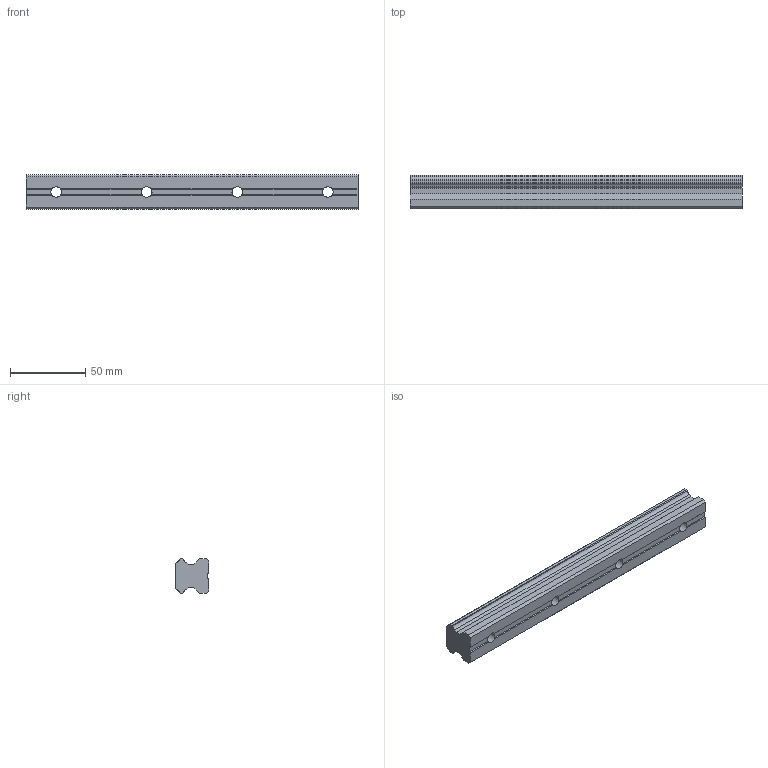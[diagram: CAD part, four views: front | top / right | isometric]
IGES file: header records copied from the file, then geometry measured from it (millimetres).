
Start section: Data from Parasolid IGES Translator 26.0.171, Copyright(c) 2006 Siemens PLM Software. All Rights Reserved.
Global section: file name: HSR25-220L(GK) RAIL(20).igs; native system: By Siemens PLM Incorporated; preprocessor: XPlus GENERIC/IGES 26.0.171; author: Noname; organization: Noname; date: 20240521.044412; units: millimetre
Bounding box: 220 x 22 x 23 mm (x, y, z)
Surface area: 23153.5 mm2 (no closed solid volume)
Topology: 0 solids, 0 shells, 54 faces, 312 edges, 300 vertices
Faces by surface type: extrusion 42, revolution 12
